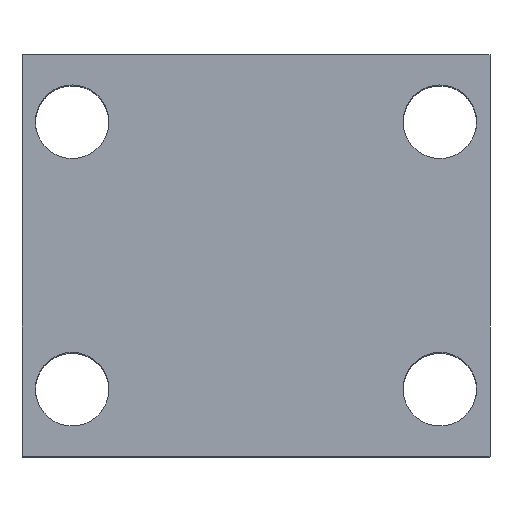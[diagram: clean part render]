
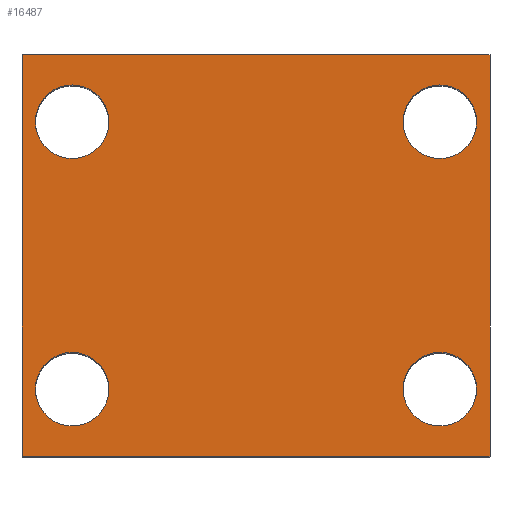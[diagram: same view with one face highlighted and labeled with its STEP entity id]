
A CAD part, top view. The second image highlights one B-rep face of the part: STEP entity #16487.
In plain terms, the highlighted planar face has unit normal (0, 0, 1).
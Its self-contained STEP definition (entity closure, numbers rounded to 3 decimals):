
#48 = EDGE_CURVE ( 'NONE', #15344, #10311, #17660, .T. ) ;
#410 = EDGE_CURVE ( 'NONE', #15807, #17835, #1316, .T. ) ;
#895 = EDGE_LOOP ( 'NONE', ( #16378, #8122 ) ) ;
#1039 = AXIS2_PLACEMENT_3D ( 'NONE', #13019, #4829, #14375 ) ;
#1232 = DIRECTION ( 'NONE',  ( -1., 0., 0. ) ) ;
#1256 = VECTOR ( 'NONE', #11974, 1000. ) ;
#1316 = LINE ( 'NONE', #9839, #7895 ) ;
#1329 = AXIS2_PLACEMENT_3D ( 'NONE', #7747, #17221, #9125 ) ;
#1414 = VERTEX_POINT ( 'NONE', #16851 ) ;
#2006 = DIRECTION ( 'NONE',  ( 0., 0., -1. ) ) ;
#2212 = ORIENTED_EDGE ( 'NONE', *, *, #9990, .F. ) ;
#2288 = EDGE_CURVE ( 'NONE', #5856, #14856, #2856, .T. ) ;
#2856 = LINE ( 'NONE', #13664, #10233 ) ;
#2959 = FACE_BOUND ( 'NONE', #6577, .T. ) ;
#3059 = ORIENTED_EDGE ( 'NONE', *, *, #48, .T. ) ;
#3138 = CARTESIAN_POINT ( 'NONE',  ( -55., 20., 90. ) ) ;
#3268 = CARTESIAN_POINT ( 'NONE',  ( 55., 100., 90. ) ) ;
#3415 = AXIS2_PLACEMENT_3D ( 'NONE', #17691, #9599, #1232 ) ;
#3445 = DIRECTION ( 'NONE',  ( 0., 0., -1. ) ) ;
#3518 = CARTESIAN_POINT ( 'NONE',  ( -70., 120., 90. ) ) ;
#3772 = VECTOR ( 'NONE', #11759, 1000. ) ;
#4515 = CARTESIAN_POINT ( 'NONE',  ( -70., 0., 90. ) ) ;
#4675 = DIRECTION ( 'NONE',  ( -1., 0., 0. ) ) ;
#4829 = DIRECTION ( 'NONE',  ( 0., 0., -1. ) ) ;
#4996 = CIRCLE ( 'NONE', #6746, 11. ) ;
#5029 = VERTEX_POINT ( 'NONE', #10530 ) ;
#5219 = DIRECTION ( 'NONE',  ( 0., 0., -1. ) ) ;
#5235 = VERTEX_POINT ( 'NONE', #12798 ) ;
#5356 = PLANE ( 'NONE',  #10385 ) ;
#5453 = LINE ( 'NONE', #14684, #1256 ) ;
#5711 = DIRECTION ( 'NONE',  ( 0., 0., -1. ) ) ;
#5856 = VERTEX_POINT ( 'NONE', #4515 ) ;
#5961 = EDGE_CURVE ( 'NONE', #10311, #15344, #4996, .T. ) ;
#6376 = CIRCLE ( 'NONE', #1329, 11. ) ;
#6446 = ORIENTED_EDGE ( 'NONE', *, *, #16252, .T. ) ;
#6482 = AXIS2_PLACEMENT_3D ( 'NONE', #3138, #3445, #8054 ) ;
#6577 = EDGE_LOOP ( 'NONE', ( #3059, #15790 ) ) ;
#6665 = FACE_BOUND ( 'NONE', #7904, .T. ) ;
#6746 = AXIS2_PLACEMENT_3D ( 'NONE', #10356, #2006, #11706 ) ;
#6848 = EDGE_CURVE ( 'NONE', #15463, #1414, #6376, .T. ) ;
#6943 = CARTESIAN_POINT ( 'NONE',  ( -44., 20., 90. ) ) ;
#7075 = CARTESIAN_POINT ( 'NONE',  ( -66., 20., 90. ) ) ;
#7087 = FACE_BOUND ( 'NONE', #16616, .T. ) ;
#7518 = FACE_BOUND ( 'NONE', #895, .T. ) ;
#7623 = CIRCLE ( 'NONE', #9304, 11. ) ;
#7747 = CARTESIAN_POINT ( 'NONE',  ( 55., 20., 90. ) ) ;
#7895 = VECTOR ( 'NONE', #8092, 1000. ) ;
#7904 = EDGE_LOOP ( 'NONE', ( #9624, #11107 ) ) ;
#8054 = DIRECTION ( 'NONE',  ( -1., 0., 0. ) ) ;
#8092 = DIRECTION ( 'NONE',  ( 1., 0., 0. ) ) ;
#8122 = ORIENTED_EDGE ( 'NONE', *, *, #9530, .T. ) ;
#8180 = DIRECTION ( 'NONE',  ( 0., 0., -1. ) ) ;
#8186 = EDGE_CURVE ( 'NONE', #15807, #5856, #15105, .T. ) ;
#8651 = CARTESIAN_POINT ( 'NONE',  ( 70., 120., 90. ) ) ;
#9125 = DIRECTION ( 'NONE',  ( -1., 0., 0. ) ) ;
#9304 = AXIS2_PLACEMENT_3D ( 'NONE', #3268, #12864, #4675 ) ;
#9463 = CARTESIAN_POINT ( 'NONE',  ( -70., 120., 90. ) ) ;
#9530 = EDGE_CURVE ( 'NONE', #12153, #5029, #7623, .T. ) ;
#9552 = CIRCLE ( 'NONE', #10465, 11. ) ;
#9599 = DIRECTION ( 'NONE',  ( 0., 0., -1. ) ) ;
#9624 = ORIENTED_EDGE ( 'NONE', *, *, #11308, .T. ) ;
#9839 = CARTESIAN_POINT ( 'NONE',  ( -70., 120., 90. ) ) ;
#9990 = EDGE_CURVE ( 'NONE', #17835, #14856, #5453, .T. ) ;
#10126 = AXIS2_PLACEMENT_3D ( 'NONE', #13409, #5219, #14761 ) ;
#10233 = VECTOR ( 'NONE', #14444, 1000. ) ;
#10311 = VERTEX_POINT ( 'NONE', #6943 ) ;
#10356 = CARTESIAN_POINT ( 'NONE',  ( -55., 20., 90. ) ) ;
#10385 = AXIS2_PLACEMENT_3D ( 'NONE', #9463, #8180, #17673 ) ;
#10465 = AXIS2_PLACEMENT_3D ( 'NONE', #13900, #5711, #15273 ) ;
#10530 = CARTESIAN_POINT ( 'NONE',  ( 44., 100., 90. ) ) ;
#10691 = EDGE_CURVE ( 'NONE', #16088, #5235, #9552, .T. ) ;
#10754 = EDGE_LOOP ( 'NONE', ( #11719, #2212, #15202, #17519 ) ) ;
#11107 = ORIENTED_EDGE ( 'NONE', *, *, #10691, .T. ) ;
#11308 = EDGE_CURVE ( 'NONE', #5235, #16088, #17570, .T. ) ;
#11584 = CIRCLE ( 'NONE', #1039, 11. ) ;
#11666 = ORIENTED_EDGE ( 'NONE', *, *, #6848, .T. ) ;
#11706 = DIRECTION ( 'NONE',  ( -1., 0., 0. ) ) ;
#11719 = ORIENTED_EDGE ( 'NONE', *, *, #2288, .T. ) ;
#11759 = DIRECTION ( 'NONE',  ( 0., -1., 0. ) ) ;
#11974 = DIRECTION ( 'NONE',  ( 0., -1., 0. ) ) ;
#12153 = VERTEX_POINT ( 'NONE', #17424 ) ;
#12548 = CARTESIAN_POINT ( 'NONE',  ( 70., 0., 90. ) ) ;
#12798 = CARTESIAN_POINT ( 'NONE',  ( -66., 100., 90. ) ) ;
#12864 = DIRECTION ( 'NONE',  ( 0., 0., -1. ) ) ;
#13019 = CARTESIAN_POINT ( 'NONE',  ( 55., 20., 90. ) ) ;
#13077 = CIRCLE ( 'NONE', #3415, 11. ) ;
#13409 = CARTESIAN_POINT ( 'NONE',  ( -55., 100., 90. ) ) ;
#13664 = CARTESIAN_POINT ( 'NONE',  ( -70., 0., 90. ) ) ;
#13900 = CARTESIAN_POINT ( 'NONE',  ( -55., 100., 90. ) ) ;
#14375 = DIRECTION ( 'NONE',  ( -1., 0., 0. ) ) ;
#14390 = EDGE_CURVE ( 'NONE', #5029, #12153, #13077, .T. ) ;
#14397 = CARTESIAN_POINT ( 'NONE',  ( 44., 20., 90. ) ) ;
#14444 = DIRECTION ( 'NONE',  ( 1., 0., 0. ) ) ;
#14684 = CARTESIAN_POINT ( 'NONE',  ( 70., 120., 90. ) ) ;
#14761 = DIRECTION ( 'NONE',  ( -1., 0., 0. ) ) ;
#14856 = VERTEX_POINT ( 'NONE', #12548 ) ;
#15051 = CARTESIAN_POINT ( 'NONE',  ( -70., 120., 90. ) ) ;
#15105 = LINE ( 'NONE', #3518, #3772 ) ;
#15202 = ORIENTED_EDGE ( 'NONE', *, *, #410, .F. ) ;
#15273 = DIRECTION ( 'NONE',  ( -1., 0., 0. ) ) ;
#15344 = VERTEX_POINT ( 'NONE', #7075 ) ;
#15463 = VERTEX_POINT ( 'NONE', #14397 ) ;
#15790 = ORIENTED_EDGE ( 'NONE', *, *, #5961, .T. ) ;
#15807 = VERTEX_POINT ( 'NONE', #15051 ) ;
#16088 = VERTEX_POINT ( 'NONE', #16346 ) ;
#16252 = EDGE_CURVE ( 'NONE', #1414, #15463, #11584, .T. ) ;
#16346 = CARTESIAN_POINT ( 'NONE',  ( -44., 100., 90. ) ) ;
#16378 = ORIENTED_EDGE ( 'NONE', *, *, #14390, .T. ) ;
#16487 = ADVANCED_FACE ( 'NONE', ( #6665, #2959, #7087, #7518, #17049 ), #5356, .F. ) ;
#16616 = EDGE_LOOP ( 'NONE', ( #11666, #6446 ) ) ;
#16851 = CARTESIAN_POINT ( 'NONE',  ( 66., 20., 90. ) ) ;
#17049 = FACE_OUTER_BOUND ( 'NONE', #10754, .T. ) ;
#17221 = DIRECTION ( 'NONE',  ( 0., 0., -1. ) ) ;
#17424 = CARTESIAN_POINT ( 'NONE',  ( 66., 100., 90. ) ) ;
#17519 = ORIENTED_EDGE ( 'NONE', *, *, #8186, .T. ) ;
#17570 = CIRCLE ( 'NONE', #10126, 11. ) ;
#17660 = CIRCLE ( 'NONE', #6482, 11. ) ;
#17673 = DIRECTION ( 'NONE',  ( -1., 0., 0. ) ) ;
#17691 = CARTESIAN_POINT ( 'NONE',  ( 55., 100., 90. ) ) ;
#17835 = VERTEX_POINT ( 'NONE', #8651 ) ;
